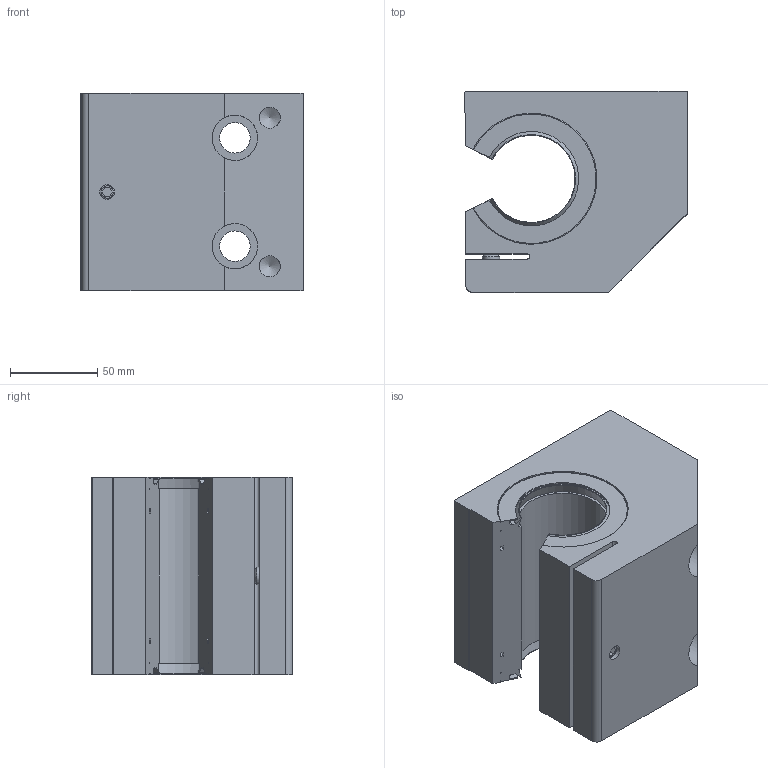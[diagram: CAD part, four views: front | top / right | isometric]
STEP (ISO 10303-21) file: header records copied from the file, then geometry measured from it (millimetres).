
FILE_DESCRIPTION(('STEP AP203'),'1');
FILE_NAME('//192.168.1.1/share/s-4 技術開発/s-4-4_CAD/s-4-4-3_見直し済み/008 修正済み/SLS-OPY/SLS-OPY_TOP/SLS-50-OPY.step','2022-03-10T07:31:54',(' '),(' '),'Spatial InterOp 3D',' ',' ');
FILE_SCHEMA(('CONFIG_CONTROL_DESIGN'));
Length unit declared in the file: millimetre
Products named in the file (1): 1
Bounding box: 127 x 115 x 113 mm (x, y, z)
Volume: 1163705.8 mm3; surface area: 119891.2 mm2
Topology: 1 solids, 3 shells, 94 faces, 260 edges, 174 vertices
Faces by surface type: plane 44, cylinder 31, cone 11, torus 8
Full cylindrical faces by diameter (mm): 4.5 x1, 5 x1, 7 x2, 8.5 x1, 10 x1, 12 x2, 17.5 x4, 26 x2
Entity records: 3039 total; most frequent: CARTESIAN_POINT 717, DIRECTION 461, ORIENTED_EDGE 452, EDGE_CURVE 226, AXIS2_PLACEMENT_3D 170, VERTEX_POINT 162, EDGE_LOOP 129, LINE 121
